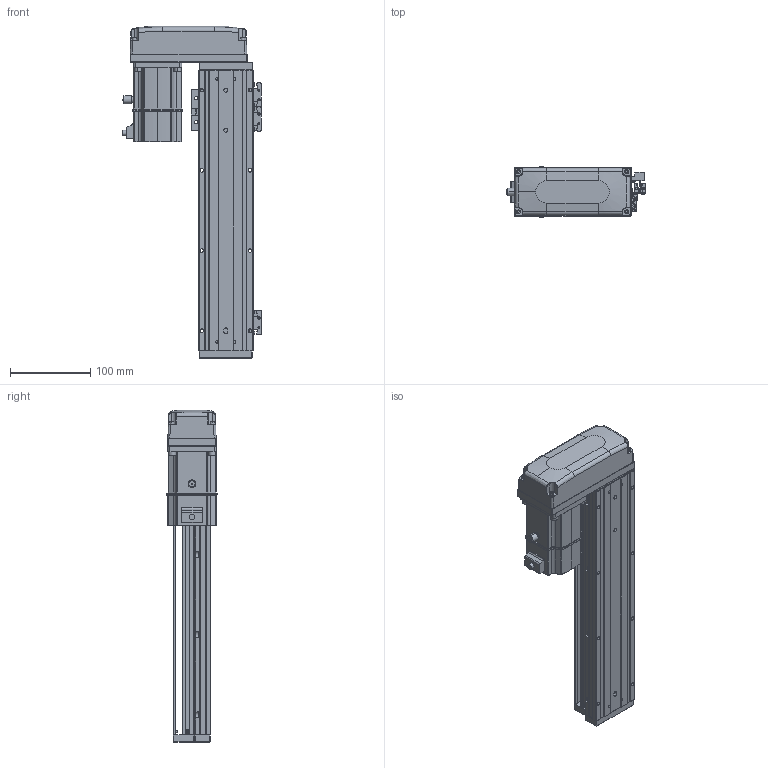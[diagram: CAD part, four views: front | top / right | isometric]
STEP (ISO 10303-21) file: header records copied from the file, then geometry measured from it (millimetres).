
FILE_DESCRIPTION (( 'STEP AP203' ), '1' );
FILE_NAME ('KTHA60-250-BR-M20-C4L.step', '2022-12-16T01:38:44', ( '微软用户' ), ( '微软中国' ), 'SwSTEP 2.0', 'SolidWorks 2020', '' );
FILE_SCHEMA (( 'CONFIG_CONTROL_DESIGN' ));
Length unit declared in the file: millimetre
Products named in the file (17): CTHA60-016; EE_SX911P_R; KTHA60-002; CTHA60-017; BTH80-026; KTHA60-001_350; CTHA60-021; CTHA60-006-2_CTHA60-006-2; KTHA60-004; GBT 70.1-M4×16; _X2_4E0983F1_X0_200W_1; KTHA60-005; GBT77-2000M3-3; KTHA60-250-BR-M20-C4L; GB¨uT 70.2-M3¡Á5_M3¡Á6; GBT 70.1-M3℅6; GBT 70.3-M3℅6
Assembly tree (51 placements, depth 2):
  KTHA60-250-BR-M20-C4L
    KTHA60-001_350
    KTHA60-004
    KTHA60-005
    GB¨uT 70.2-M3¡Á5_M3¡Á6  x6
    GBT 70.3-M3℅6  x4
    EE_SX911P_R  x3
    CTHA60-017  x3
    CTHA60-021  x2
    GBT 70.1-M4×16  x8
    GBT77-2000M3-3  x6
    GBT 70.1-M3℅6  x10
    CTHA60-016  x2
    KTHA60-002
    BTH80-026
    CTHA60-006-2_CTHA60-006-2
    _X2_4E0983F1_X0_200W_1
Bounding box: 173.02 x 62.42 x 414 mm (x, y, z)
Volume: 1099160.2 mm3; surface area: 289862.1 mm2
Topology: 54 solids, 54 shells, 2388 faces, 5661 edges, 3478 vertices
Faces by surface type: plane 1261, cylinder 632, cone 278, bspline 109, torus 92, sphere 16
Entity records: 43594 total; most frequent: CARTESIAN_POINT 10258, ORIENTED_EDGE 6370, DIRECTION 6368, EDGE_CURVE 3185, AXIS2_PLACEMENT_3D 2207, VERTEX_POINT 1987, LINE 1954, VECTOR 1954
